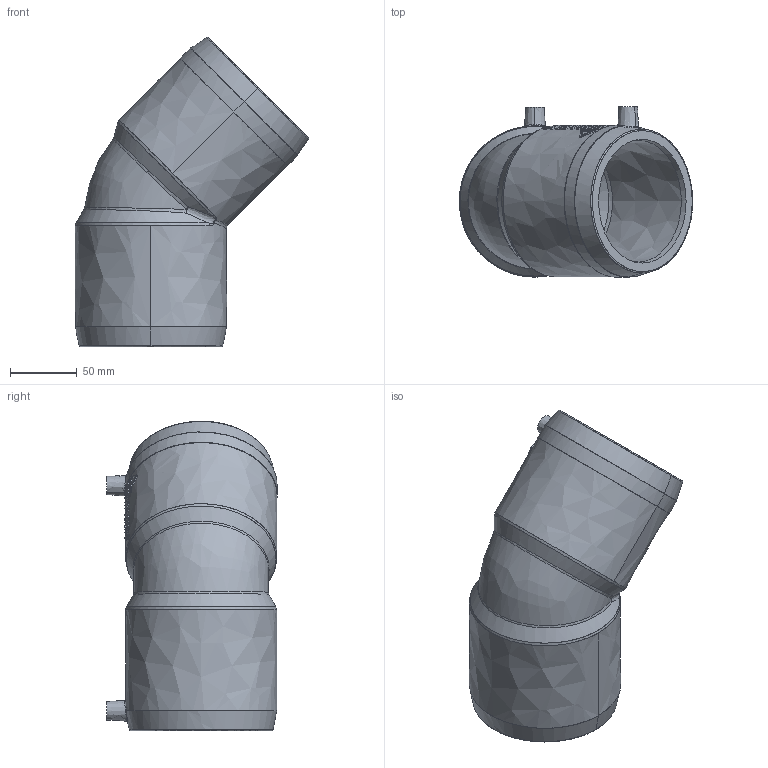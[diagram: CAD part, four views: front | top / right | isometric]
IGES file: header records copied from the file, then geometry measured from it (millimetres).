
Start section:  PTC IGES file: w45_d090_01.igs
Global section: file name: w45_d090_01.igs; native system: Pro/ENGINEER by Parametric Technology Corporation; preprocessor: 2011490; author: mtunjic; organization: Unknown; date: 20130812.112725; units: millimetre
Bounding box: 175.13 x 127.85 x 232.38 mm (x, y, z)
Surface area: 149644.6 mm2 (no closed solid volume)
Topology: 0 solids, 0 shells, 200 faces, 1014 edges, 1014 vertices
Faces by surface type: bspline 200
